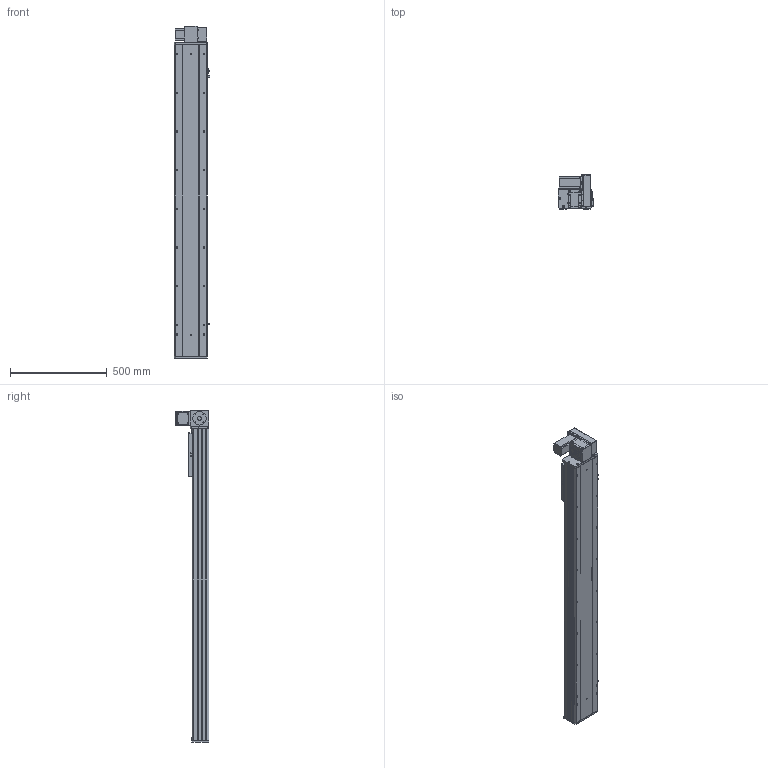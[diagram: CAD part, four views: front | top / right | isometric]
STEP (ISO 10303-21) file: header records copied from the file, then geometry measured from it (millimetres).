
FILE_DESCRIPTION (( 'STEP AP203' ), '1' );
FILE_NAME ('Y170CB-D105-S1300-UR-P400W.STEP', '2020-02-20T04:10:51', ( '微软用户' ), ( '微软中国' ), 'SwSTEP 2.0', 'SolidWorks 2017', '' );
FILE_SCHEMA (( 'CONFIG_CONTROL_DESIGN' ));
Length unit declared in the file: millimetre
Products named in the file (18): san松下电机400不带刹车----; Y100-135俋离換覜ん--; 70CB-掛极-; Y170CB-陔俋离換覜結え---; --70CB --喘謫眊楊擘啣-; Y1埴倛裔; 70CB-耜裔啣-; 17B-耜蚾蟀諉啣----; 70C--詩湍揤踡え-; 00B-俋欶BM--163; 70CB--耜裔; 70B喘謫眊----; 70C-雄赽釱-奻-; B-源倛裔啣; 0C--雄赽釱俋欶-170; 0B-萇儂楊擘啣; Y170CB-D105-S1300-UR-P400W; 70CB-詩湍--
Assembly tree (21 placements, depth 2):
  Y170CB-D105-S1300-UR-P400W
    B-源倛裔啣
    0B-萇儂楊擘啣
    san松下电机400不带刹车----
    70CB-掛极-
    --70CB --喘謫眊楊擘啣-
    70CB-耜裔啣-  x2
    70C--詩湍揤踡え-  x2
    70CB--耜裔
    70C-雄赽釱-奻-
    0C--雄赽釱俋欶-170
    70CB-詩湍--
    Y100-135俋离換覜ん--  x3
    Y170CB-陔俋离換覜結え---
    Y1埴倛裔
    17B-耜蚾蟀諉啣----
    00B-俋欶BM--163
    70B喘謫眊----
Bounding box: 183.5 x 174 x 1716 mm (x, y, z)
Volume: 7720115.6 mm3; surface area: 2774091.3 mm2
Topology: 21 solids, 21 shells, 1023 faces, 2741 edges, 1818 vertices
Faces by surface type: cylinder 537, plane 462, cone 24
Entity records: 32620 total; most frequent: CARTESIAN_POINT 5976, DIRECTION 5306, ORIENTED_EDGE 4964, EDGE_CURVE 2482, AXIS2_PLACEMENT_3D 1948, VERTEX_POINT 1648, VECTOR 1410, LINE 1410
